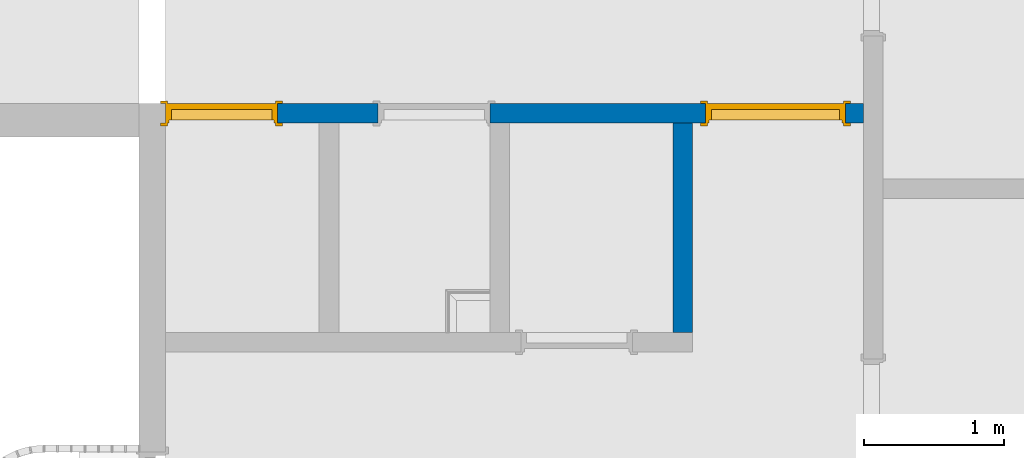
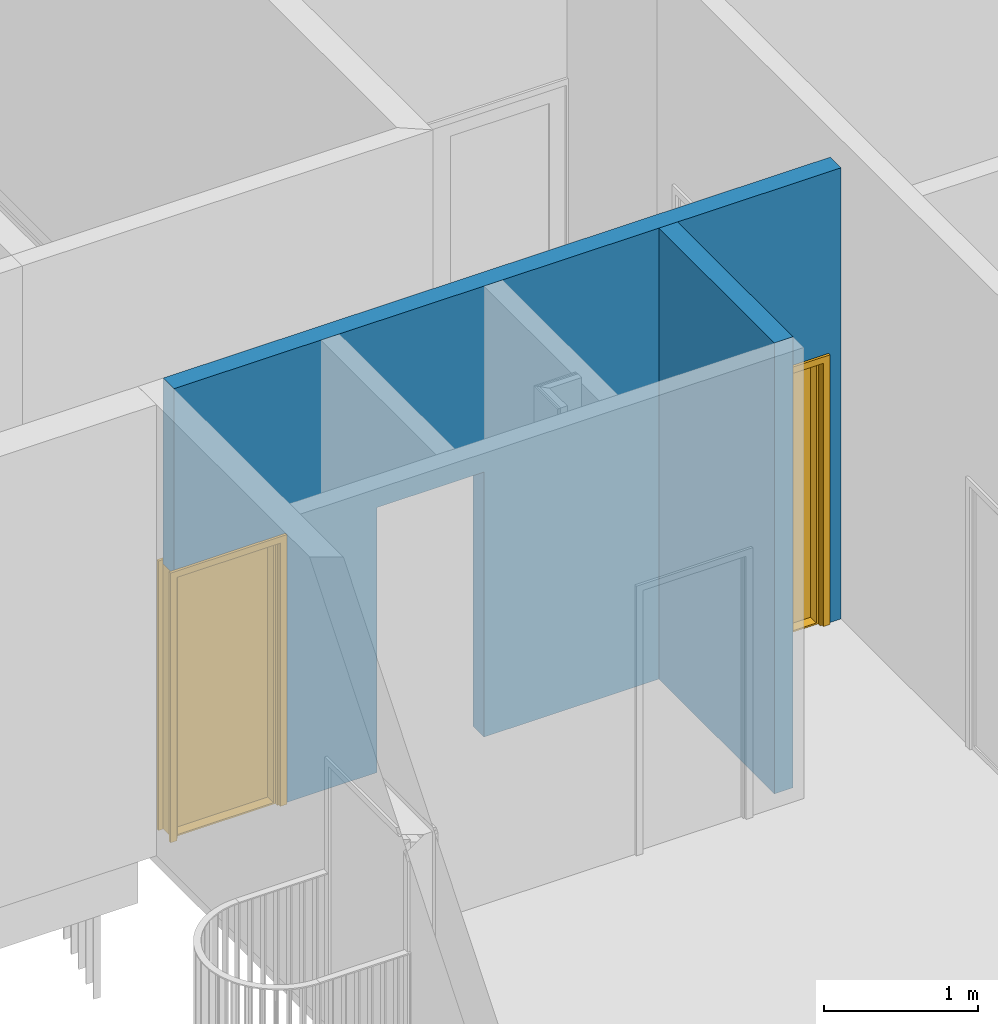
# One storey, part 10 of 100: 2 doors, 2 walls, 3 openings.
"""IFC2X3 building model written with IfcOpenShell, lengths in millimetres."""

from ifc_helpers import new_model, entity, si_unit, converted_unit, derived_unit, money_unit, direction, frame, origin_with_axes, origin_2d_with_axis, place, context, subcontext, project, spatial, polyline, rectangle, outline, extrude, faceted_brep, source, transform, mapped, material, layer, layer_set, layer_usage, type_object, element, fill, save


model = new_model("IFC2X3")

# Units and contexts
model_context = context("Model", 3, precision=0.01, world=origin_with_axes(), true_north=direction((0.0, 1.0)))
body_context = subcontext(model_context, "Body", "Model", "MODEL_VIEW")
ifc_project = project(units=[si_unit("LENGTHUNIT", "METRE", prefix="MILLI"), si_unit("AREAUNIT", "SQUARE_METRE"), si_unit("VOLUMEUNIT", "CUBIC_METRE"), converted_unit("PLANEANGLEUNIT", "DEGREE", entity("IfcPlaneAngleMeasure", 0.0174532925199), si_unit("PLANEANGLEUNIT", "RADIAN"), dimensions=[0, 0, 0, 0, 0, 0, 0]), si_unit("SOLIDANGLEUNIT", "STERADIAN"), money_unit("EUR"), converted_unit("TIMEUNIT", "Year", entity("IfcTimeMeasure", 31556926.0), si_unit("TIMEUNIT", "SECOND"), dimensions=[0, 0, 1, 0, 0, 0, 0]), si_unit("MASSUNIT", "GRAM", prefix="KILO"), si_unit("THERMODYNAMICTEMPERATUREUNIT", "DEGREE_CELSIUS"), si_unit("LUMINOUSINTENSITYUNIT", "LUMEN"), si_unit("ENERGYUNIT", "JOULE", prefix="MEGA"), derived_unit("THERMALCONDUCTANCEUNIT", [(si_unit("POWERUNIT", "WATT"), 1), (si_unit("LENGTHUNIT", "METRE"), -1), (si_unit("THERMODYNAMICTEMPERATUREUNIT", "KELVIN"), -1)]), derived_unit("SPECIFICHEATCAPACITYUNIT", [(si_unit("ENERGYUNIT", "JOULE"), 1), (si_unit("MASSUNIT", "GRAM", prefix="KILO"), -1), (si_unit("THERMODYNAMICTEMPERATUREUNIT", "KELVIN"), -1)]), derived_unit("MASSDENSITYUNIT", [(si_unit("MASSUNIT", "GRAM", prefix="KILO"), 1), (si_unit("VOLUMEUNIT", "CUBIC_METRE"), -1)])], contexts=[model_context])

# Site, building, storey
site_placement = place(None, origin_with_axes())
site = spatial("IfcSite", under=ifc_project, at=site_placement, Name="Politse- ja Piirivalveameti ning Päästeameti ühishoone", CompositionType="ELEMENT")
building_placement = place(site_placement, origin_with_axes())
building = spatial("IfcBuilding", under=site, at=building_placement, Name="Politse- ja Piirivalveameti ning Päästeameti ühishoone", CompositionType="ELEMENT")
storey_placement = place(building_placement, frame((0.0, 0.0, 3800.0), z_axis=(0.0, 0.0, 1.0), x_axis=(1.0, 0.0, 0.0)))
storey = spatial("IfcBuildingStorey", under=building, at=storey_placement, Name="Teine korrus", CompositionType="ELEMENT", Elevation=3800.0)

# Wall, openings, doors
ifc_material = material(Name="KON-05_Betoon Plokk - Konstuktsioon")
ifc_layer = layer(ifc_material, 140.0, ventilated="UNKNOWN")
ifc_layer_set = layer_set([ifc_layer], Name="SS-02_Sisesein 140")
ifc_layer_usage_1 = layer_usage(ifc_layer_set, "AXIS2", "NEGATIVE", 0.0)
wall_type = type_object("IfcWallType", Name="SS-02_Sisesein 140 140", PredefinedType="NOTDEFINED")
wall_1_placement = place(storey_placement, frame((60160.5519118, 13000.0198611, 0.0), z_axis=(0.0, 0.0, 1.0), x_axis=(1.0, 0.0, 0.0)))
wall_1 = element("IfcWallStandardCase", 1, at=wall_1_placement, inside=storey, type_object=wall_type, material=ifc_layer_usage_1, Name="SS-02", context=body_context, shape_type="SweptSolid", body=[
    extrude(outline(polyline([(0.0, -140.0), (5000.00763889, -140.0), (5000.00763889, 0.0), (0.0, 0.0), (0.0, -140.0)])), origin_with_axes(), (0.0, 0.0, 1.0), 3575.0),
])
opening_1_placement = place(wall_1_placement, frame((400.0, 0.0, 0.0), z_axis=(0.0, 0.0, 1.0), x_axis=(1.0, 0.0, 0.0)))
opening_1 = element("IfcOpeningElement", 2, at=opening_1_placement, cuts=wall_1, Name="SU-02-1", context=body_context, shape_type="SweptSolid", body=[
    extrude(rectangle(XDim=800.0, YDim=2100.0, at=origin_2d_with_axis()), frame((0.0, -140.0, 1050.0), z_axis=(0.0, -1.0, 0.0), x_axis=(-1.0, 0.0, 0.0)), (0.0, 0.0, -1.0), 420.0),
    extrude(rectangle(XDim=874.0, YDim=2137.0, at=origin_2d_with_axis()), frame((0.0, -140.0, 1068.5), z_axis=(0.0, -1.0, 0.0), x_axis=(-1.0, 0.0, 0.0)), (0.0, 0.0, 1.0), 140.0),
    extrude(rectangle(XDim=874.0, YDim=2137.0, at=origin_2d_with_axis()), frame((0.0, 0.0, 1068.5), z_axis=(0.0, 1.0, 0.0), x_axis=(-1.0, 0.0, 0.0)), (0.0, 0.0, 1.0), 140.0),
])
opening_2_placement = place(wall_1_placement, frame((1922.69616775, 0.0, 0.0), z_axis=(0.0, 0.0, 1.0), x_axis=(1.0, 0.0, 0.0)))
element("IfcOpeningElement", 3, at=opening_2_placement, cuts=wall_1, Name="SU-02-1", context=body_context, shape_type="SweptSolid", body=[
    extrude(rectangle(XDim=800.0, YDim=2100.0, at=origin_2d_with_axis()), frame((0.0, -140.0, 1050.0), z_axis=(0.0, 1.0, 0.0), x_axis=(1.0, 0.0, 0.0)), (0.0, 0.0, 1.0), 420.0),
    extrude(rectangle(XDim=874.0, YDim=2137.0, at=origin_2d_with_axis()), frame((0.0, -140.0, 1068.5), z_axis=(0.0, 1.0, 0.0), x_axis=(1.0, 0.0, 0.0)), (0.0, 0.0, -1.0), 140.0),
    extrude(rectangle(XDim=874.0, YDim=2137.0, at=origin_2d_with_axis()), frame((0.0, 0.0, 1068.5), z_axis=(0.0, -1.0, 0.0), x_axis=(1.0, 0.0, 0.0)), (0.0, 0.0, -1.0), 140.0),
])
opening_3_placement = place(wall_1_placement, frame((4369.77329155, 0.0, 0.0), z_axis=(0.0, 0.0, 1.0), x_axis=(1.0, 0.0, 0.0)))
opening_3 = element("IfcOpeningElement", 4, at=opening_3_placement, cuts=wall_1, Name="SU-02-3", context=body_context, shape_type="SweptSolid", body=[
    extrude(rectangle(XDim=1000.0, YDim=2100.0, at=origin_2d_with_axis()), frame((0.0, -140.0, 1050.0), z_axis=(0.0, 1.0, 0.0), x_axis=(1.0, 0.0, 0.0)), (0.0, 0.0, 1.0), 420.0),
    extrude(rectangle(XDim=1074.0, YDim=2137.0, at=origin_2d_with_axis()), frame((0.0, -140.0, 1068.5), z_axis=(0.0, 1.0, 0.0), x_axis=(1.0, 0.0, 0.0)), (0.0, 0.0, -1.0), 140.0),
    extrude(rectangle(XDim=1074.0, YDim=2137.0, at=origin_2d_with_axis()), frame((0.0, 0.0, 1068.5), z_axis=(0.0, -1.0, 0.0), x_axis=(1.0, 0.0, 0.0)), (0.0, 0.0, -1.0), 140.0),
])
door_style_1 = type_object("IfcDoorStyle", Name="Door 23", ConstructionType="NOTDEFINED", OperationType="SINGLE_SWING_RIGHT", ParameterTakesPrecedence=False, Sizeable=False)
shared_shape_1 = source(origin_with_axes(), body_context, "Body", "Brep", [
    faceted_brep([(472.0, -40.0, 0.0), (472.0, -40.0, 12.0), (460.0, -40.0, 12.0), (460.0, -40.0, 0.0), (-472.0, -40.0, 0.0), (-472.0, -40.0, 12.0), (-460.0, -40.0, 12.0), (-460.0, -115.0, 12.0), (460.0, -115.0, 12.0), (460.0, -115.0, 0.0), (-460.0, -115.0, 0.0), (-460.0, -40.0, 0.0)], [[[0, 1, 2, 3]], [[4, 5, 1, 0]], [[1, 5, 6, 7, 8, 2]], [[3, 2, 8, 9]], [[0, 3, 9, 10, 11, 4]], [[11, 6, 5, 4]], [[10, 7, 6, 11]], [[9, 8, 7, 10]]]),
    faceted_brep([(-500.0, -115.0, 0.0), (-475.0, -115.0, 0.0), (-475.0, -140.0, 0.0), (-500.0, -140.0, 0.0), (-500.0, -115.0, 2100.0), (-475.0, -115.0, 2075.0), (-475.0, -140.0, 2075.0), (-500.0, -140.0, 2100.0)], [[[0, 1, 2, 3]], [[0, 4, 5, 1]], [[1, 5, 6, 2]], [[3, 2, 6, 7]], [[4, 0, 3, 7]], [[5, 4, 7, 6]]]),
    faceted_brep([(500.0, -115.0, 2100.0), (475.0, -115.0, 2075.0), (475.0, -140.0, 2075.0), (500.0, -140.0, 2100.0), (500.0, -115.0, 0.0), (475.0, -115.0, 0.0), (475.0, -140.0, 0.0), (500.0, -140.0, 0.0)], [[[0, 1, 2, 3]], [[0, 4, 5, 1]], [[1, 5, 6, 2]], [[3, 2, 6, 7]], [[4, 0, 3, 7]], [[5, 4, 7, 6]]]),
    faceted_brep([(-475.0, -115.0, 2075.0), (475.0, -115.0, 2075.0), (475.0, -140.0, 2075.0), (-475.0, -140.0, 2075.0), (-500.0, -115.0, 2100.0), (500.0, -115.0, 2100.0), (500.0, -140.0, 2100.0), (-500.0, -140.0, 2100.0)], [[[0, 1, 2, 3]], [[0, 4, 5, 1]], [[1, 5, 6, 2]], [[3, 2, 6, 7]], [[4, 0, 3, 7]], [[5, 4, 7, 6]]]),
    faceted_brep([(-537.0, -159.0, 0.0), (-537.0, -140.0, 0.0), (-487.0, -140.0, 0.0), (-487.0, -159.0, 0.0), (-537.0, -159.0, 2137.0), (-537.0, -140.0, 2137.0), (-487.0, -140.0, 2087.0), (-487.0, -159.0, 2087.0)], [[[0, 1, 2, 3]], [[4, 5, 1, 0]], [[1, 5, 6, 2]], [[3, 2, 6, 7]], [[0, 3, 7, 4]], [[7, 6, 5, 4]]]),
    faceted_brep([(537.0, -159.0, 2137.0), (537.0, -140.0, 2137.0), (487.0, -140.0, 2087.0), (487.0, -159.0, 2087.0), (537.0, -159.0, 0.0), (537.0, -140.0, 0.0), (487.0, -140.0, 0.0), (487.0, -159.0, 0.0)], [[[0, 1, 2, 3]], [[4, 5, 1, 0]], [[1, 5, 6, 2]], [[3, 2, 6, 7]], [[0, 3, 7, 4]], [[7, 6, 5, 4]]]),
    faceted_brep([(-537.0, -159.0, 2137.0), (-537.0, -140.0, 2137.0), (-487.0, -140.0, 2087.0), (-487.0, -159.0, 2087.0), (537.0, -159.0, 2137.0), (537.0, -140.0, 2137.0), (487.0, -140.0, 2087.0), (487.0, -159.0, 2087.0)], [[[0, 1, 2, 3]], [[4, 5, 1, 0]], [[1, 5, 6, 2]], [[3, 2, 6, 7]], [[0, 3, 7, 4]], [[7, 6, 5, 4]]]),
    faceted_brep([(-537.0, 19.0, 0.0), (-487.0, 19.0, 0.0), (-487.0, 0.0, 0.0), (-537.0, 0.0, 0.0), (-537.0, 19.0, 2137.0), (-487.0, 19.0, 2087.0), (-487.0, 0.0, 2087.0), (-537.0, 0.0, 2137.0)], [[[0, 1, 2, 3]], [[0, 4, 5, 1]], [[1, 5, 6, 2]], [[3, 2, 6, 7]], [[4, 0, 3, 7]], [[5, 4, 7, 6]]]),
    faceted_brep([(537.0, 19.0, 2137.0), (487.0, 19.0, 2087.0), (487.0, 0.0, 2087.0), (537.0, 0.0, 2137.0), (537.0, 19.0, 0.0), (487.0, 19.0, 0.0), (487.0, 0.0, 0.0), (537.0, 0.0, 0.0)], [[[0, 1, 2, 3]], [[0, 4, 5, 1]], [[1, 5, 6, 2]], [[3, 2, 6, 7]], [[4, 0, 3, 7]], [[5, 4, 7, 6]]]),
    faceted_brep([(-537.0, 19.0, 2137.0), (-487.0, 19.0, 2087.0), (-487.0, 0.0, 2087.0), (-537.0, 0.0, 2137.0), (537.0, 19.0, 2137.0), (487.0, 19.0, 2087.0), (487.0, 0.0, 2087.0), (537.0, 0.0, 2137.0)], [[[0, 1, 2, 3]], [[0, 4, 5, 1]], [[1, 5, 6, 2]], [[3, 2, 6, 7]], [[4, 0, 3, 7]], [[5, 4, 7, 6]]]),
    faceted_brep([(-460.0, -40.0, 0.0), (-460.0, -40.0, 2060.0), (-460.0, -115.0, 2060.0), (-460.0, -115.0, 0.0), (-472.0, -40.0, 2060.0), (-472.0, -40.0, 0.0), (-472.0, 0.0, 2060.0), (-500.0, 0.0, 2060.0), (-500.0, -115.0, 2060.0), (-500.0, -115.0, 0.0), (-500.0, 0.0, 0.0), (-472.0, 0.0, 0.0)], [[[0, 1, 2, 3]], [[4, 1, 0, 5]], [[4, 6, 7, 8, 2, 1]], [[3, 2, 8, 9]], [[5, 0, 3, 9, 10, 11]], [[6, 4, 5, 11]], [[6, 11, 10, 7]], [[10, 9, 8, 7]]]),
    faceted_brep([(472.0, -40.0, 2060.0), (460.0, -40.0, 2060.0), (460.0, -115.0, 2060.0), (500.0, -115.0, 2060.0), (500.0, 0.0, 2060.0), (472.0, 0.0, 2060.0), (472.0, -40.0, 0.0), (460.0, -40.0, 0.0), (460.0, -115.0, 0.0), (500.0, -115.0, 0.0), (500.0, 0.0, 0.0), (472.0, 0.0, 0.0)], [[[0, 1, 2, 3, 4, 5]], [[1, 0, 6, 7]], [[1, 7, 8, 2]], [[3, 2, 8, 9]], [[4, 3, 9, 10]], [[11, 5, 4, 10]], [[0, 5, 11, 6]], [[6, 11, 10, 9, 8, 7]]]),
    faceted_brep([(-472.0, 0.0, 2072.0), (-472.0, 0.0, 2060.0), (-500.0, 0.0, 2060.0), (-500.0, 0.0, 2100.0), (500.0, 0.0, 2100.0), (500.0, 0.0, 2060.0), (472.0, 0.0, 2060.0), (472.0, 0.0, 2072.0), (-472.0, -40.0, 2072.0), (-472.0, -40.0, 2060.0), (-460.0, -40.0, 2060.0), (-460.0, -115.0, 2060.0), (-500.0, -115.0, 2060.0), (-500.0, -115.0, 2100.0), (500.0, -115.0, 2100.0), (500.0, -115.0, 2060.0), (472.0, -40.0, 2060.0), (460.0, -115.0, 2060.0), (460.0, -40.0, 2060.0), (472.0, -40.0, 2072.0)], [[[0, 1, 2, 3, 4, 5, 6, 7]], [[1, 0, 8, 9]], [[9, 10, 11, 12, 2, 1]], [[2, 12, 13, 3]], [[3, 13, 14, 4]], [[4, 14, 15, 5]], [[16, 6, 5, 15, 17, 18]], [[7, 6, 16, 19]], [[0, 7, 19, 8]], [[16, 18, 10, 9, 8, 19]], [[10, 18, 17, 11]], [[17, 15, 14, 13, 12, 11]]]),
    faceted_brep([(472.0, 0.0, 0.0), (472.0, -40.0, 0.0), (-472.0, -40.0, 0.0), (-472.0, 0.0, 0.0), (472.0, 0.0, 2072.0), (472.0, -40.0, 2072.0), (-472.0, -40.0, 2072.0), (-472.0, 0.0, 2072.0)], [[[0, 1, 2, 3]], [[4, 5, 1, 0]], [[1, 5, 6, 2]], [[3, 2, 6, 7]], [[0, 3, 7, 4]], [[7, 6, 5, 4]]]),
])
door_1_placement = place(opening_3_placement, frame((-500.0, 0.0, 0.0), z_axis=(0.0, 0.0, 1.0), x_axis=(1.0, 0.0, 0.0)))
door_1 = element("IfcDoor", 5, at=door_1_placement, inside=storey, type_object=door_style_1, Name="SU-02-3", ObjectType="DOOR", OverallHeight=2100.0, OverallWidth=1000.0, context=body_context, shape_type="MappedRepresentation", body=[
    mapped(shared_shape_1, transform((500.0, 0.0, 0.0))),
])
fill(opening_3, door_1)
door_style_2 = type_object("IfcDoorStyle", Name="Door 23", ConstructionType="NOTDEFINED", OperationType="SINGLE_SWING_LEFT", ParameterTakesPrecedence=False, Sizeable=False)
shared_shape_2 = source(origin_with_axes(), body_context, "Body", "Brep", [
    faceted_brep([(-372.0, -40.0, 0.0), (-360.0, -40.0, 0.0), (-360.0, -40.0, 12.0), (-372.0, -40.0, 12.0), (372.0, -40.0, 0.0), (360.0, -40.0, 0.0), (360.0, -115.0, 0.0), (-360.0, -115.0, 0.0), (-360.0, -115.0, 12.0), (360.0, -115.0, 12.0), (360.0, -40.0, 12.0), (372.0, -40.0, 12.0)], [[[0, 1, 2, 3]], [[0, 4, 5, 6, 7, 1]], [[1, 7, 8, 2]], [[3, 2, 8, 9, 10, 11]], [[4, 0, 3, 11]], [[5, 4, 11, 10]], [[6, 5, 10, 9]], [[7, 6, 9, 8]]]),
    faceted_brep([(400.0, -115.0, 0.0), (400.0, -140.0, 0.0), (375.0, -140.0, 0.0), (375.0, -115.0, 0.0), (400.0, -115.0, 2100.0), (400.0, -140.0, 2100.0), (375.0, -140.0, 2075.0), (375.0, -115.0, 2075.0)], [[[0, 1, 2, 3]], [[4, 5, 1, 0]], [[1, 5, 6, 2]], [[3, 2, 6, 7]], [[0, 3, 7, 4]], [[7, 6, 5, 4]]]),
    faceted_brep([(-400.0, -115.0, 2100.0), (-400.0, -140.0, 2100.0), (-375.0, -140.0, 2075.0), (-375.0, -115.0, 2075.0), (-400.0, -115.0, 0.0), (-400.0, -140.0, 0.0), (-375.0, -140.0, 0.0), (-375.0, -115.0, 0.0)], [[[0, 1, 2, 3]], [[4, 5, 1, 0]], [[1, 5, 6, 2]], [[3, 2, 6, 7]], [[0, 3, 7, 4]], [[7, 6, 5, 4]]]),
    faceted_brep([(375.0, -115.0, 2075.0), (375.0, -140.0, 2075.0), (-375.0, -140.0, 2075.0), (-375.0, -115.0, 2075.0), (400.0, -115.0, 2100.0), (400.0, -140.0, 2100.0), (-400.0, -140.0, 2100.0), (-400.0, -115.0, 2100.0)], [[[0, 1, 2, 3]], [[4, 5, 1, 0]], [[1, 5, 6, 2]], [[3, 2, 6, 7]], [[0, 3, 7, 4]], [[7, 6, 5, 4]]]),
    faceted_brep([(437.0, -159.0, 0.0), (387.0, -159.0, 0.0), (387.0, -140.0, 0.0), (437.0, -140.0, 0.0), (437.0, -159.0, 2137.0), (387.0, -159.0, 2087.0), (387.0, -140.0, 2087.0), (437.0, -140.0, 2137.0)], [[[0, 1, 2, 3]], [[0, 4, 5, 1]], [[1, 5, 6, 2]], [[3, 2, 6, 7]], [[4, 0, 3, 7]], [[5, 4, 7, 6]]]),
    faceted_brep([(-437.0, -159.0, 2137.0), (-387.0, -159.0, 2087.0), (-387.0, -140.0, 2087.0), (-437.0, -140.0, 2137.0), (-437.0, -159.0, 0.0), (-387.0, -159.0, 0.0), (-387.0, -140.0, 0.0), (-437.0, -140.0, 0.0)], [[[0, 1, 2, 3]], [[0, 4, 5, 1]], [[1, 5, 6, 2]], [[3, 2, 6, 7]], [[4, 0, 3, 7]], [[5, 4, 7, 6]]]),
    faceted_brep([(437.0, -159.0, 2137.0), (387.0, -159.0, 2087.0), (387.0, -140.0, 2087.0), (437.0, -140.0, 2137.0), (-437.0, -159.0, 2137.0), (-387.0, -159.0, 2087.0), (-387.0, -140.0, 2087.0), (-437.0, -140.0, 2137.0)], [[[0, 1, 2, 3]], [[0, 4, 5, 1]], [[1, 5, 6, 2]], [[3, 2, 6, 7]], [[4, 0, 3, 7]], [[5, 4, 7, 6]]]),
    faceted_brep([(437.0, 19.0, 0.0), (437.0, 0.0, 0.0), (387.0, 0.0, 0.0), (387.0, 19.0, 0.0), (437.0, 19.0, 2137.0), (437.0, 0.0, 2137.0), (387.0, 0.0, 2087.0), (387.0, 19.0, 2087.0)], [[[0, 1, 2, 3]], [[4, 5, 1, 0]], [[1, 5, 6, 2]], [[3, 2, 6, 7]], [[0, 3, 7, 4]], [[7, 6, 5, 4]]]),
    faceted_brep([(-437.0, 19.0, 2137.0), (-437.0, 0.0, 2137.0), (-387.0, 0.0, 2087.0), (-387.0, 19.0, 2087.0), (-437.0, 19.0, 0.0), (-437.0, 0.0, 0.0), (-387.0, 0.0, 0.0), (-387.0, 19.0, 0.0)], [[[0, 1, 2, 3]], [[4, 5, 1, 0]], [[1, 5, 6, 2]], [[3, 2, 6, 7]], [[0, 3, 7, 4]], [[7, 6, 5, 4]]]),
    faceted_brep([(437.0, 19.0, 2137.0), (437.0, 0.0, 2137.0), (387.0, 0.0, 2087.0), (387.0, 19.0, 2087.0), (-437.0, 19.0, 2137.0), (-437.0, 0.0, 2137.0), (-387.0, 0.0, 2087.0), (-387.0, 19.0, 2087.0)], [[[0, 1, 2, 3]], [[4, 5, 1, 0]], [[1, 5, 6, 2]], [[3, 2, 6, 7]], [[0, 3, 7, 4]], [[7, 6, 5, 4]]]),
    faceted_brep([(360.0, -40.0, 0.0), (360.0, -115.0, 0.0), (360.0, -115.0, 2060.0), (360.0, -40.0, 2060.0), (372.0, -40.0, 0.0), (372.0, 0.0, 0.0), (400.0, 0.0, 0.0), (400.0, -115.0, 0.0), (400.0, -115.0, 2060.0), (372.0, -40.0, 2060.0), (400.0, 0.0, 2060.0), (372.0, 0.0, 2060.0)], [[[0, 1, 2, 3]], [[4, 5, 6, 7, 1, 0]], [[1, 7, 8, 2]], [[9, 3, 2, 8, 10, 11]], [[9, 4, 0, 3]], [[11, 5, 4, 9]], [[11, 10, 6, 5]], [[6, 10, 8, 7]]]),
    faceted_brep([(-372.0, -40.0, 2060.0), (-372.0, 0.0, 2060.0), (-400.0, 0.0, 2060.0), (-400.0, -115.0, 2060.0), (-360.0, -115.0, 2060.0), (-360.0, -40.0, 2060.0), (-372.0, -40.0, 0.0), (-372.0, 0.0, 0.0), (-400.0, 0.0, 0.0), (-400.0, -115.0, 0.0), (-360.0, -115.0, 0.0), (-360.0, -40.0, 0.0)], [[[0, 1, 2, 3, 4, 5]], [[0, 6, 7, 1]], [[7, 8, 2, 1]], [[2, 8, 9, 3]], [[3, 9, 10, 4]], [[5, 4, 10, 11]], [[5, 11, 6, 0]], [[6, 11, 10, 9, 8, 7]]]),
    faceted_brep([(372.0, 0.0, 2072.0), (-372.0, 0.0, 2072.0), (-372.0, 0.0, 2060.0), (-400.0, 0.0, 2060.0), (-400.0, 0.0, 2100.0), (400.0, 0.0, 2100.0), (400.0, 0.0, 2060.0), (372.0, 0.0, 2060.0), (372.0, -40.0, 2072.0), (-372.0, -40.0, 2072.0), (-372.0, -40.0, 2060.0), (-360.0, -40.0, 2060.0), (-360.0, -115.0, 2060.0), (-400.0, -115.0, 2060.0), (-400.0, -115.0, 2100.0), (400.0, -115.0, 2100.0), (400.0, -115.0, 2060.0), (372.0, -40.0, 2060.0), (360.0, -115.0, 2060.0), (360.0, -40.0, 2060.0)], [[[0, 1, 2, 3, 4, 5, 6, 7]], [[0, 8, 9, 1]], [[1, 9, 10, 2]], [[10, 11, 12, 13, 3, 2]], [[4, 3, 13, 14]], [[5, 4, 14, 15]], [[6, 5, 15, 16]], [[17, 7, 6, 16, 18, 19]], [[7, 17, 8, 0]], [[10, 9, 8, 17, 19, 11]], [[19, 18, 12, 11]], [[12, 18, 16, 15, 14, 13]]]),
    faceted_brep([(-372.0, 0.0, 0.0), (372.0, 0.0, 0.0), (372.0, -40.0, 0.0), (-372.0, -40.0, 0.0), (-372.0, 0.0, 2072.0), (372.0, 0.0, 2072.0), (372.0, -40.0, 2072.0), (-372.0, -40.0, 2072.0)], [[[0, 1, 2, 3]], [[0, 4, 5, 1]], [[1, 5, 6, 2]], [[3, 2, 6, 7]], [[4, 0, 3, 7]], [[5, 4, 7, 6]]]),
])
door_2_placement = place(opening_1_placement, frame((-400.0, 0.0, 0.0), z_axis=(0.0, 0.0, 1.0), x_axis=(1.0, 0.0, 0.0)))
door_2 = element("IfcDoor", 6, at=door_2_placement, inside=storey, type_object=door_style_2, Name="SU-02-1", ObjectType="DOOR", OverallHeight=2100.0, OverallWidth=800.0, context=body_context, shape_type="MappedRepresentation", body=[
    mapped(shared_shape_2, transform((400.0, 0.0, 0.0))),
])
fill(opening_1, door_2)

# Wall
ifc_layer_usage_2 = layer_usage(ifc_layer_set, "AXIS2", "NEGATIVE", 0.0)
wall_2_placement = place(storey_placement, frame((63935.2311782, 13000.0198611, 0.0), z_axis=(0.0, 0.0, 1.0), x_axis=(0.0, -1.0, 0.0)))
element("IfcWallStandardCase", 7, at=wall_2_placement, inside=storey, type_object=wall_type, material=ifc_layer_usage_2, Name="SS-02", context=body_context, shape_type="SweptSolid", body=[
    extrude(outline(polyline([(140.0, -140.0), (1640.0, -140.0), (1640.0, 0.0), (140.0, 0.0), (140.0, -140.0)])), origin_with_axes(), (0.0, 0.0, 1.0), 3575.0),
])

save(model, "model.ifc")
